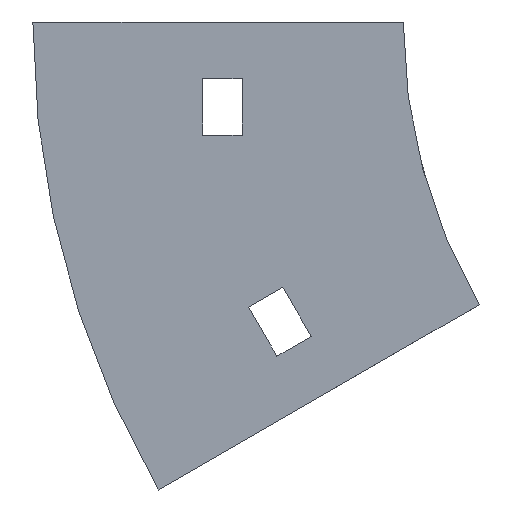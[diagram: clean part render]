
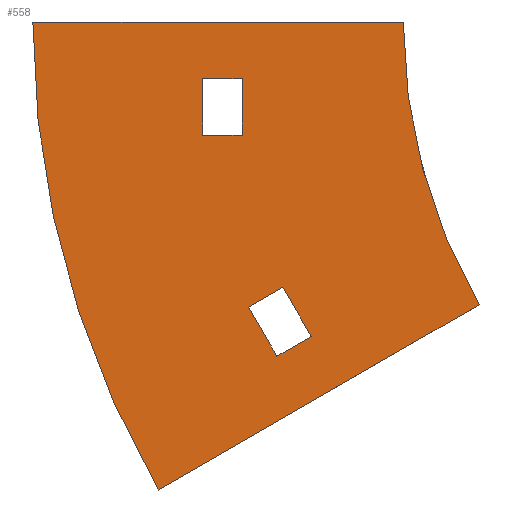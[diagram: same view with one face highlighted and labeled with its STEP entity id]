
A CAD part, left-side view. The second image highlights one B-rep face of the part: STEP entity #558.
In plain terms, the highlighted planar face has unit normal (-1, 0, 0).
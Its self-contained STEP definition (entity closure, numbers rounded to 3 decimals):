
#8 = EDGE_CURVE ( 'NONE', #168, #947, #677, .T. ) ;
#20 = VERTEX_POINT ( 'NONE', #124 ) ;
#32 = CARTESIAN_POINT ( 'NONE',  ( -52., 28.5, -10. ) ) ;
#37 = LINE ( 'NONE', #374, #769 ) ;
#43 = PLANE ( 'NONE',  #714 ) ;
#50 = CARTESIAN_POINT ( 'NONE',  ( -52., 27.346, -50.429 ) ) ;
#58 = EDGE_CURVE ( 'NONE', #20, #229, #37, .T. ) ;
#59 = FACE_BOUND ( 'NONE', #452, .T. ) ;
#67 = VECTOR ( 'NONE', #782, 1000. ) ;
#79 = CARTESIAN_POINT ( 'NONE',  ( -52., 28.5, -20. ) ) ;
#119 = ORIENTED_EDGE ( 'NONE', *, *, #463, .T. ) ;
#124 = CARTESIAN_POINT ( 'NONE',  ( -52., 35.5, -20. ) ) ;
#126 = VECTOR ( 'NONE', #613, 1000. ) ;
#129 = VECTOR ( 'NONE', #550, 1000. ) ;
#135 = EDGE_CURVE ( 'NONE', #778, #563, #317, .T. ) ;
#144 = EDGE_CURVE ( 'NONE', #727, #20, #1124, .T. ) ;
#165 = VECTOR ( 'NONE', #747, 1000. ) ;
#167 = DIRECTION ( 'NONE',  ( 0., -0.866, 0.5 ) ) ;
#168 = VERTEX_POINT ( 'NONE', #1040 ) ;
#175 = DIRECTION ( 'NONE',  ( 0., 0., 1. ) ) ;
#189 = CARTESIAN_POINT ( 'NONE',  ( -52., -100., 0. ) ) ;
#190 = ORIENTED_EDGE ( 'NONE', *, *, #144, .T. ) ;
#213 = VERTEX_POINT ( 'NONE', #620 ) ;
#220 = CARTESIAN_POINT ( 'NONE',  ( -52., 16.284, -55.59 ) ) ;
#221 = VECTOR ( 'NONE', #301, 1000. ) ;
#229 = VERTEX_POINT ( 'NONE', #796 ) ;
#237 = CARTESIAN_POINT ( 'NONE',  ( -52., 22.346, -59.09 ) ) ;
#270 = DIRECTION ( 'NONE',  ( 0., 0., 1. ) ) ;
#277 = VERTEX_POINT ( 'NONE', #967 ) ;
#299 = DIRECTION ( 'NONE',  ( 0., 0., 1. ) ) ;
#301 = DIRECTION ( 'NONE',  ( 0., -1., 0. ) ) ;
#302 = DIRECTION ( 'NONE',  ( 0., 0., -1. ) ) ;
#304 = ORIENTED_EDGE ( 'NONE', *, *, #923, .F. ) ;
#307 = FACE_BOUND ( 'NONE', #353, .T. ) ;
#317 = LINE ( 'NONE', #50, #67 ) ;
#341 = ORIENTED_EDGE ( 'NONE', *, *, #842, .T. ) ;
#353 = EDGE_LOOP ( 'NONE', ( #435, #1065, #304, #900 ) ) ;
#374 = CARTESIAN_POINT ( 'NONE',  ( -52., 35.5, -10. ) ) ;
#384 = LINE ( 'NONE', #1009, #221 ) ;
#386 = CARTESIAN_POINT ( 'NONE',  ( -52., 28.5, -10. ) ) ;
#413 = FACE_OUTER_BOUND ( 'NONE', #937, .T. ) ;
#432 = CARTESIAN_POINT ( 'NONE',  ( -52., -13.397, -50. ) ) ;
#435 = ORIENTED_EDGE ( 'NONE', *, *, #799, .F. ) ;
#444 = VECTOR ( 'NONE', #302, 1000. ) ;
#452 = EDGE_LOOP ( 'NONE', ( #341, #119, #190, #505 ) ) ;
#463 = EDGE_CURVE ( 'NONE', #1143, #727, #686, .T. ) ;
#493 = ORIENTED_EDGE ( 'NONE', *, *, #8, .F. ) ;
#505 = ORIENTED_EDGE ( 'NONE', *, *, #58, .T. ) ;
#515 = EDGE_CURVE ( 'NONE', #998, #168, #886, .T. ) ;
#532 = VERTEX_POINT ( 'NONE', #237 ) ;
#550 = DIRECTION ( 'NONE',  ( 0., -0.5, -0.866 ) ) ;
#558 = ADVANCED_FACE ( 'NONE', ( #59, #413, #307 ), #43, .T. ) ;
#560 = EDGE_CURVE ( 'NONE', #277, #998, #566, .T. ) ;
#562 = DIRECTION ( 'NONE',  ( -1., 0., 0. ) ) ;
#563 = VERTEX_POINT ( 'NONE', #988 ) ;
#566 = CIRCLE ( 'NONE', #808, 100. ) ;
#571 = CARTESIAN_POINT ( 'NONE',  ( -52., 22.346, -59.09 ) ) ;
#582 = VECTOR ( 'NONE', #676, 1000. ) ;
#610 = CARTESIAN_POINT ( 'NONE',  ( -52., 35.5, -10. ) ) ;
#613 = DIRECTION ( 'NONE',  ( 0., 1., 0. ) ) ;
#620 = CARTESIAN_POINT ( 'NONE',  ( -52., 16.284, -55.59 ) ) ;
#664 = LINE ( 'NONE', #571, #129 ) ;
#676 = DIRECTION ( 'NONE',  ( 0., -1., 0. ) ) ;
#677 = CIRCLE ( 'NONE', #898, 165.5 ) ;
#679 = VECTOR ( 'NONE', #952, 1000. ) ;
#686 = LINE ( 'NONE', #386, #444 ) ;
#710 = ORIENTED_EDGE ( 'NONE', *, *, #515, .F. ) ;
#714 = AXIS2_PLACEMENT_3D ( 'NONE', #1107, #912, #270 ) ;
#727 = VERTEX_POINT ( 'NONE', #79 ) ;
#742 = VECTOR ( 'NONE', #167, 1000. ) ;
#747 = DIRECTION ( 'NONE',  ( 0., 0.5, 0.866 ) ) ;
#751 = DIRECTION ( 'NONE',  ( 0., 0., 1. ) ) ;
#769 = VECTOR ( 'NONE', #751, 1000. ) ;
#775 = LINE ( 'NONE', #610, #582 ) ;
#778 = VERTEX_POINT ( 'NONE', #779 ) ;
#779 = CARTESIAN_POINT ( 'NONE',  ( -52., 21.284, -46.929 ) ) ;
#782 = DIRECTION ( 'NONE',  ( 0., 0.866, -0.5 ) ) ;
#796 = CARTESIAN_POINT ( 'NONE',  ( -52., 35.5, -10. ) ) ;
#799 = EDGE_CURVE ( 'NONE', #213, #778, #853, .T. ) ;
#808 = AXIS2_PLACEMENT_3D ( 'NONE', #189, #562, #175 ) ;
#833 = ORIENTED_EDGE ( 'NONE', *, *, #879, .F. ) ;
#842 = EDGE_CURVE ( 'NONE', #229, #1143, #775, .T. ) ;
#853 = LINE ( 'NONE', #220, #165 ) ;
#878 = CARTESIAN_POINT ( 'NONE',  ( -52., 35.5, -20. ) ) ;
#879 = EDGE_CURVE ( 'NONE', #947, #277, #384, .T. ) ;
#886 = LINE ( 'NONE', #432, #679 ) ;
#894 = CARTESIAN_POINT ( 'NONE',  ( -52., 22.346, -59.09 ) ) ;
#898 = AXIS2_PLACEMENT_3D ( 'NONE', #944, #1007, #299 ) ;
#900 = ORIENTED_EDGE ( 'NONE', *, *, #135, .F. ) ;
#911 = ORIENTED_EDGE ( 'NONE', *, *, #560, .F. ) ;
#912 = DIRECTION ( 'NONE',  ( -1., 0., 0. ) ) ;
#923 = EDGE_CURVE ( 'NONE', #563, #532, #664, .T. ) ;
#937 = EDGE_LOOP ( 'NONE', ( #911, #833, #493, #710 ) ) ;
#944 = CARTESIAN_POINT ( 'NONE',  ( -52., -100., 0. ) ) ;
#947 = VERTEX_POINT ( 'NONE', #1123 ) ;
#952 = DIRECTION ( 'NONE',  ( 0., 0.866, -0.5 ) ) ;
#958 = CARTESIAN_POINT ( 'NONE',  ( -52., -13.397, -50. ) ) ;
#967 = CARTESIAN_POINT ( 'NONE',  ( -52., 0., 0. ) ) ;
#988 = CARTESIAN_POINT ( 'NONE',  ( -52., 27.346, -50.429 ) ) ;
#998 = VERTEX_POINT ( 'NONE', #958 ) ;
#1007 = DIRECTION ( 'NONE',  ( 1., 0., 0. ) ) ;
#1009 = CARTESIAN_POINT ( 'NONE',  ( -52., 65.5, 0. ) ) ;
#1013 = EDGE_CURVE ( 'NONE', #532, #213, #1132, .T. ) ;
#1040 = CARTESIAN_POINT ( 'NONE',  ( -52., 43.327, -82.75 ) ) ;
#1065 = ORIENTED_EDGE ( 'NONE', *, *, #1013, .F. ) ;
#1107 = CARTESIAN_POINT ( 'NONE',  ( -52., -100., 0. ) ) ;
#1123 = CARTESIAN_POINT ( 'NONE',  ( -52., 65.5, 0. ) ) ;
#1124 = LINE ( 'NONE', #878, #126 ) ;
#1132 = LINE ( 'NONE', #894, #742 ) ;
#1143 = VERTEX_POINT ( 'NONE', #32 ) ;
